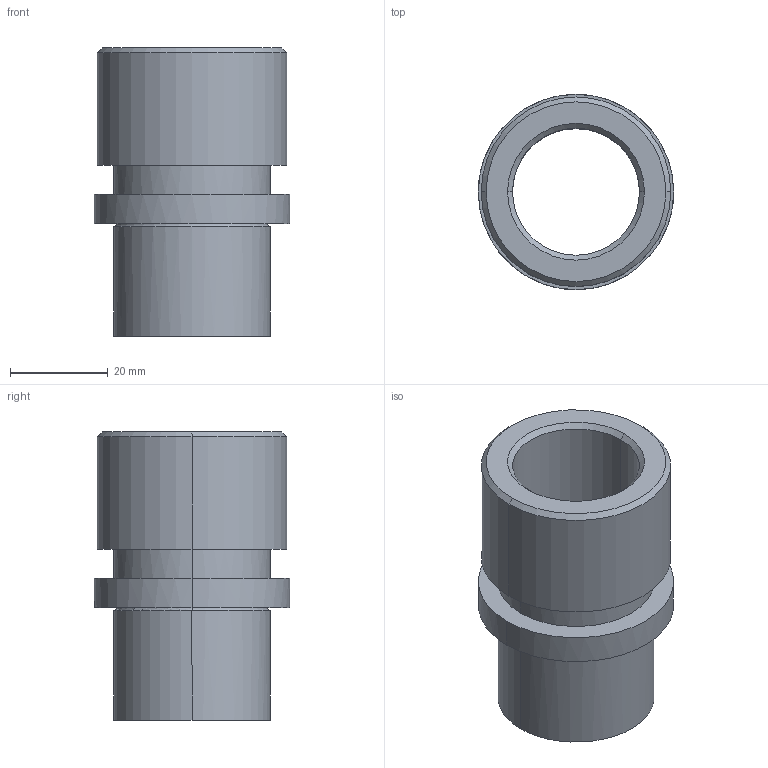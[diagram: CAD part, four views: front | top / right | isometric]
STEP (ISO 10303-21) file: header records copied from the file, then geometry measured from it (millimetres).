
FILE_DESCRIPTION(('CATIA V5 STEP Exchange'),'2;1');
FILE_NAME('C:\Users\Utente\Desktop\IO LAVORO\3D X SITO CF\X SITO\733\733-20.stp','2021-01-11T17:40:53+00:00',('none'),('none'),'CATIA Version 5 Release 20 GA (IN-10)','CATIA V5 STEP AP203','none');
FILE_SCHEMA(('CONFIG_CONTROL_DESIGN'));
Length unit declared in the file: millimetre
Products named in the file (1): 733-20
Assembly tree (1 placements, depth 2):
  733-20
    #58
Bounding box: 40 x 40 x 59 mm (x, y, z)
Volume: 27686.6 mm3; surface area: 13616.1 mm2
Topology: 1 solids, 1 shells, 25 faces, 50 edges, 30 vertices
Faces by surface type: cylinder 10, cone 6, plane 5, torus 4
Entity records: 851 total; most frequent: CARTESIAN_POINT 282, ORIENTED_EDGE 100, DIRECTION 96, AXIS2_PLACEMENT_3D 53, EDGE_CURVE 50, EDGE_LOOP 30, VERTEX_POINT 30, CIRCLE 26
